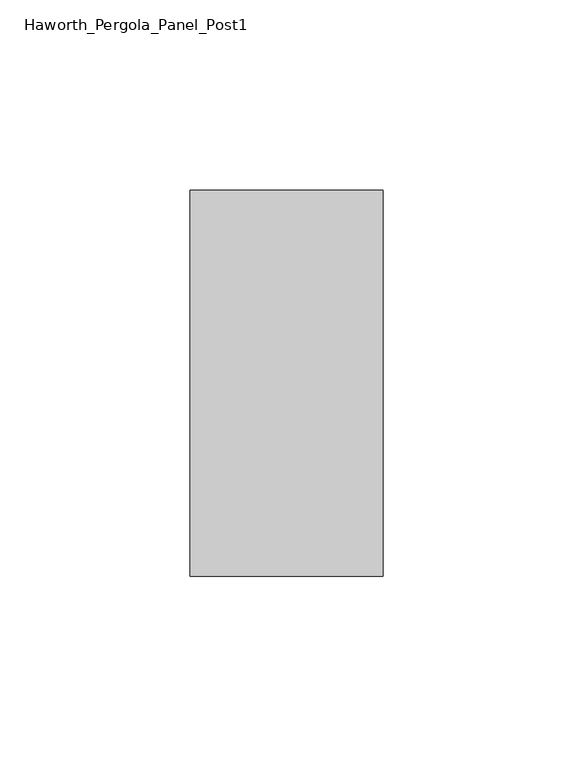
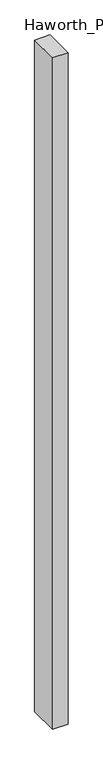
"""IFC4 building model written with IfcOpenShell, lengths in millimetres: furniture geometry, Haworth_Pergola_Panel_Post1 : Underbeam Eor."""

from ifc_helpers import new_model, si_unit, point, frame, frame_2d, origin, origin_with_axes, place, context, project, spatial, polyline, circle_curve, trimmed, segment, composite_curve, outline, extrude, source, transform, mapped, element, save


def haworth_pergola_panel_post1_ba5553ec(model_context):
    return source(origin(), model_context, "Body", "SweptSolid", [
        extrude(outline(composite_curve([segment(trimmed(circle_curve(frame_2d((12.7000008, 0.0)), 9.525), [point((3.1750008, 0.0))], [point((22.2250008, 0.0))], False, "CARTESIAN"), True, "CONTINUOUS"), segment(trimmed(circle_curve(frame_2d((12.7000008, 0.0)), 9.525), [point((22.2250008, 0.0))], [point((3.1750008, 0.0))], False, "CARTESIAN"), True, "CONTINUOUS")], self_intersect=False)), origin_with_axes(), (0.0, 0.0, 1.0), 12.7),
        extrude(outline(polyline([(38.1, 50.8), (38.1, -50.8), (-12.7, -50.8), (-12.7, 50.8), (38.1, 50.8)])), frame((0.0, 0.0, 12.7), z_axis=(0.0, 0.0, 1.0), x_axis=(1.0, 0.0, 0.0)), (0.0, 0.0, 1.0), 2319.1390625),
    ])


if __name__ == "__main__":
    model = new_model("IFC4")
    model_context = context("Model", 3, world=origin())
    ifc_project = project(units=[si_unit("LENGTHUNIT", "METRE", prefix="MILLI")], contexts=[model_context])
    site = spatial("IfcSite", under=ifc_project)
    building = spatial("IfcBuilding", under=site)
    placement = place(None, origin())
    haworth_pergola_panel_post1_shape = haworth_pergola_panel_post1_ba5553ec(model_context)
    element("IfcFurniture", 1, ObjectType="Haworth_Pergola_Panel_Post1 : Underbeam Eor", at=placement, inside=building, context=model_context, shape_type="MappedRepresentation", body=[
        mapped(haworth_pergola_panel_post1_shape, transform((0.0, 0.0, 0.0), x_axis=(1.0, 0.0, 0.0), y_axis=(0.0, 1.0, 0.0), z_axis=(0.0, 0.0, 1.0))),
    ])
    save(model, "model.ifc")
